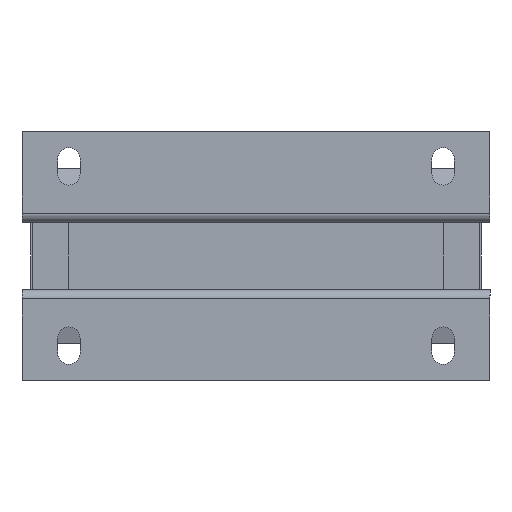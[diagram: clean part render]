
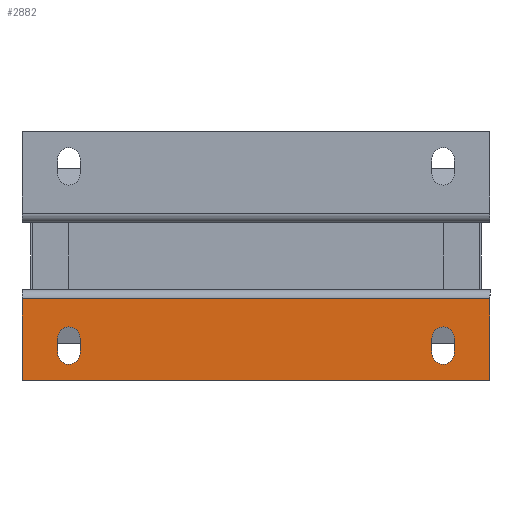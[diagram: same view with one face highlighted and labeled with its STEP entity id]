
A CAD part, front view. The second image highlights one B-rep face of the part: STEP entity #2882.
In plain terms, the highlighted planar face has unit normal (0, -1, 0).
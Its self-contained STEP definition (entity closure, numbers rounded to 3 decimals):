
#122 = VERTEX_POINT ( 'NONE', #969 ) ;
#237 = CARTESIAN_POINT ( 'NONE',  ( 40., 0., -20.75 ) ) ;
#488 = ORIENTED_EDGE ( 'NONE', *, *, #10467, .T. ) ;
#494 = DIRECTION ( 'NONE',  ( 0., 1., 0. ) ) ;
#528 = AXIS2_PLACEMENT_3D ( 'NONE', #237, #2268, #6177 ) ;
#743 = ORIENTED_EDGE ( 'NONE', *, *, #1180, .T. ) ;
#796 = CARTESIAN_POINT ( 'NONE',  ( 37.6, 0., -17.55 ) ) ;
#864 = FACE_BOUND ( 'NONE', #3150, .T. ) ;
#968 = VECTOR ( 'NONE', #8754, 1000. ) ;
#969 = CARTESIAN_POINT ( 'NONE',  ( 50., 0., -26.65 ) ) ;
#1012 = CARTESIAN_POINT ( 'NONE',  ( 50., 0., -8.15 ) ) ;
#1020 = VECTOR ( 'NONE', #5976, 1000. ) ;
#1180 = EDGE_CURVE ( 'NONE', #11168, #2773, #1897, .T. ) ;
#1375 = EDGE_CURVE ( 'NONE', #9721, #3044, #6685, .T. ) ;
#1468 = DIRECTION ( 'NONE',  ( 0., 1., 0. ) ) ;
#1477 = DIRECTION ( 'NONE',  ( 0., 0., -1. ) ) ;
#1897 = LINE ( 'NONE', #6077, #7737 ) ;
#2268 = DIRECTION ( 'NONE',  ( 0., 1., 0. ) ) ;
#2323 = ORIENTED_EDGE ( 'NONE', *, *, #9463, .T. ) ;
#2523 = CARTESIAN_POINT ( 'NONE',  ( -42.4, 0., -20.75 ) ) ;
#2559 = DIRECTION ( 'NONE',  ( 1., 0., 0. ) ) ;
#2726 = ORIENTED_EDGE ( 'NONE', *, *, #12070, .T. ) ;
#2733 = CARTESIAN_POINT ( 'NONE',  ( -50., 0., -9.15 ) ) ;
#2773 = VERTEX_POINT ( 'NONE', #796 ) ;
#2775 = AXIS2_PLACEMENT_3D ( 'NONE', #8856, #1468, #13002 ) ;
#2877 = ORIENTED_EDGE ( 'NONE', *, *, #1375, .T. ) ;
#2882 = ADVANCED_FACE ( 'NONE', ( #864, #9198, #12333 ), #6115, .F. ) ;
#2979 = DIRECTION ( 'NONE',  ( 0., 0., -1. ) ) ;
#3044 = VERTEX_POINT ( 'NONE', #7701 ) ;
#3150 = EDGE_LOOP ( 'NONE', ( #2877, #2323, #7159, #4934 ) ) ;
#3237 = CIRCLE ( 'NONE', #2775, 2.4 ) ;
#3298 = DIRECTION ( 'NONE',  ( 0., 0., 1. ) ) ;
#3544 = EDGE_CURVE ( 'NONE', #7019, #7202, #13394, .T. ) ;
#3604 = LINE ( 'NONE', #3792, #4937 ) ;
#3792 = CARTESIAN_POINT ( 'NONE',  ( 42.4, 0., -20.75 ) ) ;
#4004 = DIRECTION ( 'NONE',  ( 0., 1., 0. ) ) ;
#4275 = CARTESIAN_POINT ( 'NONE',  ( -50., 0., -26.65 ) ) ;
#4397 = VECTOR ( 'NONE', #3298, 1000. ) ;
#4461 = LINE ( 'NONE', #9719, #4397 ) ;
#4648 = DIRECTION ( 'NONE',  ( -1., 0., 0. ) ) ;
#4649 = EDGE_CURVE ( 'NONE', #122, #6692, #4461, .T. ) ;
#4650 = DIRECTION ( 'NONE',  ( 1., 0., 0. ) ) ;
#4701 = CARTESIAN_POINT ( 'NONE',  ( 37.6, 0., -20.75 ) ) ;
#4842 = CARTESIAN_POINT ( 'NONE',  ( -37.6, 0., -17.55 ) ) ;
#4934 = ORIENTED_EDGE ( 'NONE', *, *, #8251, .T. ) ;
#4937 = VECTOR ( 'NONE', #1477, 1000. ) ;
#4948 = DIRECTION ( 'NONE',  ( 0., 1., 0. ) ) ;
#5259 = DIRECTION ( 'NONE',  ( 0., 0., 1. ) ) ;
#5421 = AXIS2_PLACEMENT_3D ( 'NONE', #8448, #494, #4650 ) ;
#5701 = CARTESIAN_POINT ( 'NONE',  ( -42.4, 0., -20.75 ) ) ;
#5740 = VERTEX_POINT ( 'NONE', #8075 ) ;
#5976 = DIRECTION ( 'NONE',  ( 0., 0., 1. ) ) ;
#5978 = VECTOR ( 'NONE', #8545, 1000. ) ;
#5986 = CARTESIAN_POINT ( 'NONE',  ( 42.4, 0., -20.75 ) ) ;
#6077 = CARTESIAN_POINT ( 'NONE',  ( 37.6, 0., -20.75 ) ) ;
#6115 = PLANE ( 'NONE',  #11808 ) ;
#6148 = CARTESIAN_POINT ( 'NONE',  ( -50., 0., -8.15 ) ) ;
#6177 = DIRECTION ( 'NONE',  ( 1., 0., 0. ) ) ;
#6226 = VERTEX_POINT ( 'NONE', #2523 ) ;
#6628 = ORIENTED_EDGE ( 'NONE', *, *, #8564, .T. ) ;
#6685 = LINE ( 'NONE', #12693, #5978 ) ;
#6692 = VERTEX_POINT ( 'NONE', #7452 ) ;
#6700 = LINE ( 'NONE', #9836, #7787 ) ;
#6754 = LINE ( 'NONE', #10916, #968 ) ;
#6928 = LINE ( 'NONE', #5701, #1020 ) ;
#7019 = VERTEX_POINT ( 'NONE', #4275 ) ;
#7078 = EDGE_LOOP ( 'NONE', ( #11255, #488, #743, #6628 ) ) ;
#7100 = ORIENTED_EDGE ( 'NONE', *, *, #4649, .T. ) ;
#7159 = ORIENTED_EDGE ( 'NONE', *, *, #9393, .T. ) ;
#7202 = VERTEX_POINT ( 'NONE', #2733 ) ;
#7394 = VERTEX_POINT ( 'NONE', #8759 ) ;
#7452 = CARTESIAN_POINT ( 'NONE',  ( 50., 0., -9.15 ) ) ;
#7477 = EDGE_CURVE ( 'NONE', #122, #7019, #6700, .T. ) ;
#7690 = VECTOR ( 'NONE', #5259, 1000. ) ;
#7701 = CARTESIAN_POINT ( 'NONE',  ( -37.6, 0., -20.75 ) ) ;
#7737 = VECTOR ( 'NONE', #10243, 1000. ) ;
#7787 = VECTOR ( 'NONE', #4648, 1000. ) ;
#8075 = CARTESIAN_POINT ( 'NONE',  ( -42.4, 0., -17.55 ) ) ;
#8251 = EDGE_CURVE ( 'NONE', #5740, #9721, #3237, .T. ) ;
#8448 = CARTESIAN_POINT ( 'NONE',  ( 40., 0., -17.55 ) ) ;
#8545 = DIRECTION ( 'NONE',  ( 0., 0., -1. ) ) ;
#8564 = EDGE_CURVE ( 'NONE', #2773, #7394, #11307, .T. ) ;
#8754 = DIRECTION ( 'NONE',  ( -1., 0., 0. ) ) ;
#8759 = CARTESIAN_POINT ( 'NONE',  ( 42.4, 0., -17.55 ) ) ;
#8823 = CIRCLE ( 'NONE', #528, 2.4 ) ;
#8856 = CARTESIAN_POINT ( 'NONE',  ( -40., 0., -17.55 ) ) ;
#8858 = AXIS2_PLACEMENT_3D ( 'NONE', #13005, #4948, #2559 ) ;
#9041 = EDGE_LOOP ( 'NONE', ( #7100, #2726, #11241, #12827 ) ) ;
#9198 = FACE_BOUND ( 'NONE', #7078, .T. ) ;
#9393 = EDGE_CURVE ( 'NONE', #6226, #5740, #6928, .T. ) ;
#9463 = EDGE_CURVE ( 'NONE', #3044, #6226, #12996, .T. ) ;
#9719 = CARTESIAN_POINT ( 'NONE',  ( 50., 0., -8.15 ) ) ;
#9721 = VERTEX_POINT ( 'NONE', #4842 ) ;
#9836 = CARTESIAN_POINT ( 'NONE',  ( -50., 0., -26.65 ) ) ;
#9902 = EDGE_CURVE ( 'NONE', #7394, #12652, #3604, .T. ) ;
#10243 = DIRECTION ( 'NONE',  ( 0., 0., 1. ) ) ;
#10467 = EDGE_CURVE ( 'NONE', #12652, #11168, #8823, .T. ) ;
#10916 = CARTESIAN_POINT ( 'NONE',  ( -50., 0., -9.15 ) ) ;
#11168 = VERTEX_POINT ( 'NONE', #4701 ) ;
#11241 = ORIENTED_EDGE ( 'NONE', *, *, #3544, .F. ) ;
#11255 = ORIENTED_EDGE ( 'NONE', *, *, #9902, .T. ) ;
#11307 = CIRCLE ( 'NONE', #5421, 2.4 ) ;
#11808 = AXIS2_PLACEMENT_3D ( 'NONE', #1012, #4004, #2979 ) ;
#12070 = EDGE_CURVE ( 'NONE', #6692, #7202, #6754, .T. ) ;
#12333 = FACE_OUTER_BOUND ( 'NONE', #9041, .T. ) ;
#12652 = VERTEX_POINT ( 'NONE', #5986 ) ;
#12693 = CARTESIAN_POINT ( 'NONE',  ( -37.6, 0., -20.75 ) ) ;
#12827 = ORIENTED_EDGE ( 'NONE', *, *, #7477, .F. ) ;
#12996 = CIRCLE ( 'NONE', #8858, 2.4 ) ;
#13002 = DIRECTION ( 'NONE',  ( 1., 0., 0. ) ) ;
#13005 = CARTESIAN_POINT ( 'NONE',  ( -40., 0., -20.75 ) ) ;
#13394 = LINE ( 'NONE', #6148, #7690 ) ;
